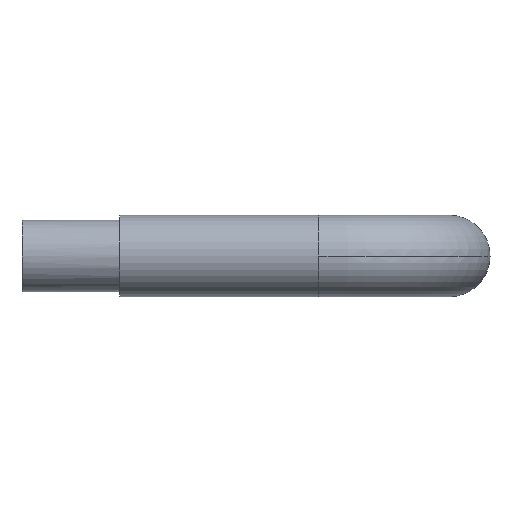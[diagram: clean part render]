
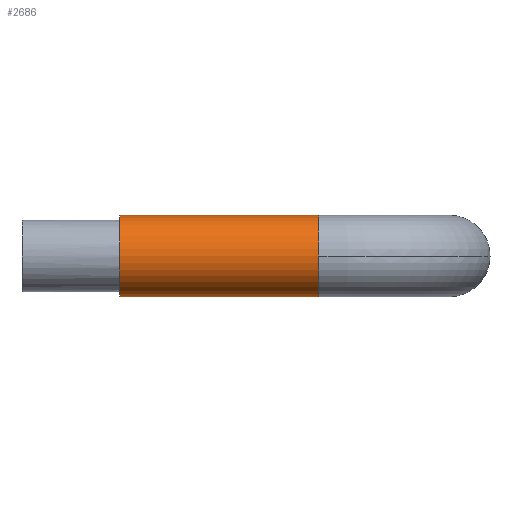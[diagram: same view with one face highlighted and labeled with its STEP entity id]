
A CAD part, left-side view. The second image highlights one B-rep face of the part: STEP entity #2686.
In plain terms, the highlighted cylindrical face has radius 62.5 mm (diameter 125 mm), a partial arc.
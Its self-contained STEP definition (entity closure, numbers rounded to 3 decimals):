
#1184 = AXIS2_PLACEMENT_3D ( 'NONE', #4989, #4985, #4992 ) ;
#1464 = EDGE_LOOP ( 'NONE', ( #1580, #1581, #1582, #1583, #1584 ) ) ;
#1580 = ORIENTED_EDGE ( 'NONE', *, *, #3057, .F. ) ;
#1581 = ORIENTED_EDGE ( 'NONE', *, *, #3011, .F. ) ;
#1582 = ORIENTED_EDGE ( 'NONE', *, *, #3075, .F. ) ;
#1583 = ORIENTED_EDGE ( 'NONE', *, *, #3060, .T. ) ;
#1584 = ORIENTED_EDGE ( 'NONE', *, *, #3076, .T. ) ;
#2442 = VERTEX_POINT ( 'NONE', #4789 ) ;
#2496 = VERTEX_POINT ( 'NONE', #4843 ) ;
#2497 = VERTEX_POINT ( 'NONE', #4844 ) ;
#2498 = VERTEX_POINT ( 'NONE', #4845 ) ;
#2505 = VERTEX_POINT ( 'NONE', #4852 ) ;
#2686 = ADVANCED_FACE ( 'NONE', ( #4988 ), #4991, .T. ) ;
#3011 = EDGE_CURVE ( 'NONE', #2496, #2497, #6324, .T. ) ;
#3057 = EDGE_CURVE ( 'NONE', #2497, #2505, #6818, .T. ) ;
#3060 = EDGE_CURVE ( 'NONE', #2498, #2442, #6821, .T. ) ;
#3075 = EDGE_CURVE ( 'NONE', #2498, #2496, #6401, .T. ) ;
#3076 = EDGE_CURVE ( 'NONE', #2442, #2505, #6404, .T. ) ;
#4789 = CARTESIAN_POINT ( 'NONE',  ( -430., 505., 62.5 ) ) ;
#4843 = CARTESIAN_POINT ( 'NONE',  ( -492.5, 200., 0. ) ) ;
#4844 = CARTESIAN_POINT ( 'NONE',  ( -430., 200., -62.5 ) ) ;
#4845 = CARTESIAN_POINT ( 'NONE',  ( -430., 200., 62.5 ) ) ;
#4852 = CARTESIAN_POINT ( 'NONE',  ( -430., 505., -62.5 ) ) ;
#4985 = DIRECTION ( 'NONE',  ( 0., 1., 0. ) ) ;
#4988 = FACE_OUTER_BOUND ( 'NONE', #1464, .T. ) ;
#4989 = CARTESIAN_POINT ( 'NONE',  ( -430., 200., 0. ) ) ;
#4991 = CYLINDRICAL_SURFACE ( 'NONE', #1184, 62.5 ) ;
#4992 = DIRECTION ( 'NONE',  ( 0., 0., 1. ) ) ;
#6162 = CARTESIAN_POINT ( 'NONE',  ( -430., 200., 0. ) ) ;
#6163 = DIRECTION ( 'NONE',  ( 0., -1., 0. ) ) ;
#6164 = DIRECTION ( 'NONE',  ( 0., 0., -1. ) ) ;
#6324 = CIRCLE ( 'NONE', #6331, 62.5 ) ;
#6331 = AXIS2_PLACEMENT_3D ( 'NONE', #6162, #6163, #6164 ) ;
#6389 = VECTOR ( 'NONE', #6820, 1000. ) ;
#6393 = VECTOR ( 'NONE', #6830, 1000. ) ;
#6401 = CIRCLE ( 'NONE', #6405, 62.5 ) ;
#6404 = CIRCLE ( 'NONE', #6407, 62.5 ) ;
#6405 = AXIS2_PLACEMENT_3D ( 'NONE', #7097, #7098, #7099 ) ;
#6407 = AXIS2_PLACEMENT_3D ( 'NONE', #7100, #7101, #7102 ) ;
#6818 = LINE ( 'NONE', #6819, #6389 ) ;
#6819 = CARTESIAN_POINT ( 'NONE',  ( -430., 200., -62.5 ) ) ;
#6820 = DIRECTION ( 'NONE',  ( 0., 1., 0. ) ) ;
#6821 = LINE ( 'NONE', #6822, #6393 ) ;
#6822 = CARTESIAN_POINT ( 'NONE',  ( -430., 200., 62.5 ) ) ;
#6830 = DIRECTION ( 'NONE',  ( 0., 1., 0. ) ) ;
#7097 = CARTESIAN_POINT ( 'NONE',  ( -430., 200., 0. ) ) ;
#7098 = DIRECTION ( 'NONE',  ( 0., -1., 0. ) ) ;
#7099 = DIRECTION ( 'NONE',  ( 0., 0., -1. ) ) ;
#7100 = CARTESIAN_POINT ( 'NONE',  ( -430., 505., 0. ) ) ;
#7101 = DIRECTION ( 'NONE',  ( 0., -1., 0. ) ) ;
#7102 = DIRECTION ( 'NONE',  ( 0., 0., -1. ) ) ;
